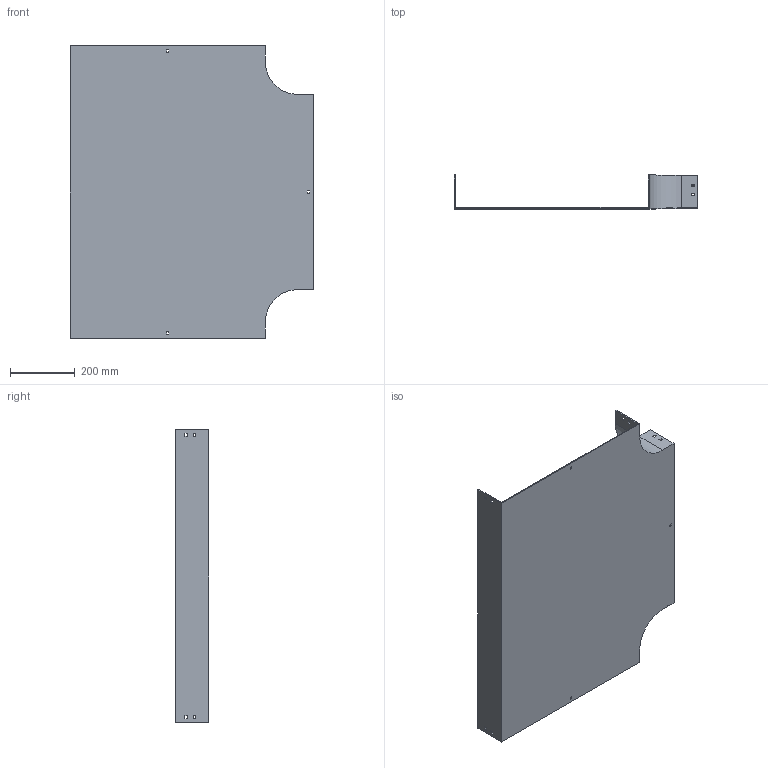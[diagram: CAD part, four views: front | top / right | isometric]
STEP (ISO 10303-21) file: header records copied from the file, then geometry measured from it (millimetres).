
FILE_DESCRIPTION (( 'STEP AP214' ), '1' );
FILE_NAME ('15B1D600.step', '2025-02-21T09:53:29', ( '' ), ( '' ), 'SwSTEP 2.0', 'SolidWorks 2023', '' );
FILE_SCHEMA (( 'AUTOMOTIVE_DESIGN' ));
Length unit declared in the file: millimetre
Products named in the file (1): 15B1D600
Bounding box: 754 x 104 x 904 mm (x, y, z)
Volume: 2740395.2 mm3; surface area: 1581109.7 mm2
Topology: 1 solids, 1 shells, 82 faces, 240 edges, 160 vertices
Faces by surface type: plane 78, cylinder 4
Entity records: 2755 total; most frequent: CARTESIAN_POINT 483, ORIENTED_EDGE 480, DIRECTION 414, EDGE_CURVE 240, LINE 232, VECTOR 232, VERTEX_POINT 160, EDGE_LOOP 112
